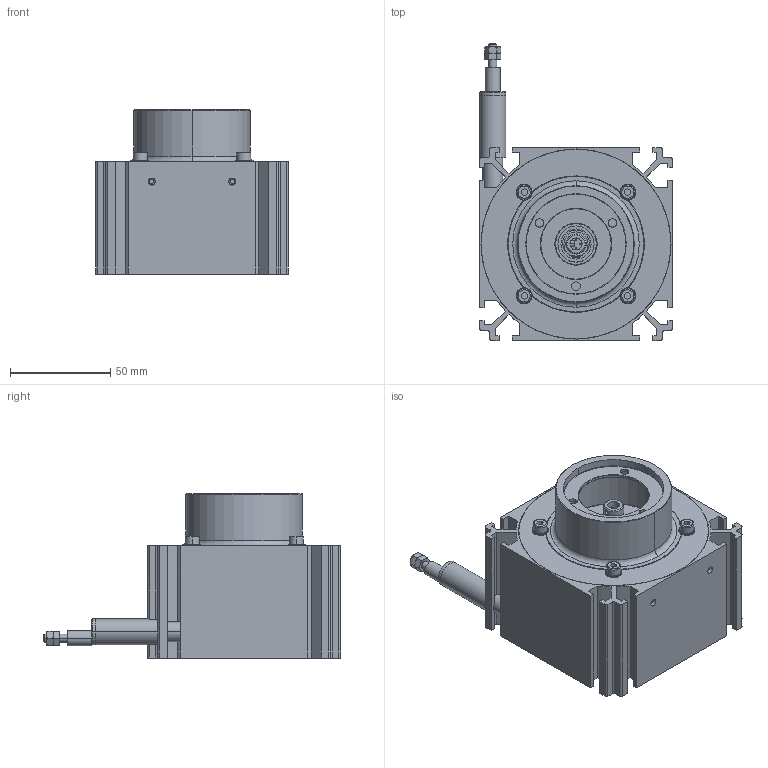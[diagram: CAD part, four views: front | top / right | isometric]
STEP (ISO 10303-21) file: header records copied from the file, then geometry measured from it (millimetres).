
FILE_DESCRIPTION((''),'2;1');
FILE_NAME('WDS-3000-P96-M_ASM','2016-03-18T',('15000411'),(''),'PRO/ENGINEER BY PARAMETRIC TECHNOLOGY CORPORATION, 2015200','PRO/ENGINEER BY PARAMETRIC TECHNOLOGY CORPORATION, 2015200','');
FILE_SCHEMA(('CONFIG_CONTROL_DESIGN'));
Length unit declared in the file: millimetre
Products named in the file (40): TELESO_SENZORU_3M_AF0; ADAPTER_3M_P96_AF0; STAV_SR_M4X5_IMBUS_PLOCH_AF0; STAV_SR_M4X5_IMBUS_PLOCH_AF1; STAV_SR_M4X5_IMBUS_PLOCH_AF2; STAV_SR_M4X5_IMBUS_PLOCH_AF3; POJ_KROUZEK_DIRA_21X_AF0; POJ_KROUZEK_DIRA_21X_AF1; LOZISKO_6801_AF0; LOZISKO_6801_AF1; HRIDEL_3M_AF0; POJ_KROUZEK_HRIDEL_12; UNASEC_PRUZINY_3M_AF0; KOLIK_PRUZNY_3X20_AF0; KOLIK_PRUZNY_3X20_AF1; KOLIK_PRUZNY_3X20_AF2; KOLIK_PRUZNY_3X20_AF3; KOLIK_PRUZNY_3X20_AF4; KOLIK_PRUZNY_3X20_AF5; KOLIK_PRUZNY_3X20_AF6; 14X0I25X6000_AF0; PODLOZKA_MOTORU_15X84I5X0I5_AF0; BUBINEK_260_AF0; STAV_SR_M4X5_IMBUS_PLOCH_AF4; VIKO_SENZORU_AF0; TRUBKA_PRUCHODKY_3M_AF0; PRUCHODKA_1_2; SROUB_LANKA_0_8; MATICE_M4; SPOJKA_GS5_PR6; KOLIK_PRUZNY_2X10; SPOJKA_KRIZ; STAV_SR_M3X3_IMBUS_PLOCH; PRIRUBA_SYNCHROENKODERU_P96; PODLOZKA_M4_VEJIROVA; SROUB_M4X6_VALC_IMBUS_AF0; SROUB_M4X6_VALC_IMBUS_AF1; SROUB_M4X6_VALC_IMBUS_AF2; SROUB_M4X6_VALC_IMBUS_AF3; WDS-3000-P96-M_ASM
Assembly tree (44 placements, depth 2):
  WDS-3000-P96-M_ASM
    TELESO_SENZORU_3M_AF0
    ADAPTER_3M_P96_AF0
    STAV_SR_M4X5_IMBUS_PLOCH_AF0
    STAV_SR_M4X5_IMBUS_PLOCH_AF1
    STAV_SR_M4X5_IMBUS_PLOCH_AF2
    STAV_SR_M4X5_IMBUS_PLOCH_AF3
    POJ_KROUZEK_DIRA_21X_AF0
    POJ_KROUZEK_DIRA_21X_AF1
    LOZISKO_6801_AF0
    LOZISKO_6801_AF1
    HRIDEL_3M_AF0
    POJ_KROUZEK_HRIDEL_12
    UNASEC_PRUZINY_3M_AF0
    KOLIK_PRUZNY_3X20_AF0
    KOLIK_PRUZNY_3X20_AF1
    KOLIK_PRUZNY_3X20_AF2
    KOLIK_PRUZNY_3X20_AF3
    KOLIK_PRUZNY_3X20_AF4
    KOLIK_PRUZNY_3X20_AF5
    KOLIK_PRUZNY_3X20_AF6
    14X0I25X6000_AF0
    PODLOZKA_MOTORU_15X84I5X0I5_AF0
    BUBINEK_260_AF0
    STAV_SR_M4X5_IMBUS_PLOCH_AF4
    VIKO_SENZORU_AF0
    TRUBKA_PRUCHODKY_3M_AF0
    PRUCHODKA_1_2
    SROUB_LANKA_0_8
    MATICE_M4  x2
    SPOJKA_GS5_PR6  x2
    KOLIK_PRUZNY_2X10
    SPOJKA_KRIZ
    STAV_SR_M3X3_IMBUS_PLOCH
    PRIRUBA_SYNCHROENKODERU_P96
    PODLOZKA_M4_VEJIROVA  x4
    SROUB_M4X6_VALC_IMBUS_AF0
    SROUB_M4X6_VALC_IMBUS_AF1
    SROUB_M4X6_VALC_IMBUS_AF2
    SROUB_M4X6_VALC_IMBUS_AF3
Bounding box: 96 x 148 x 81.7 mm (x, y, z)
Volume: 131964 mm3; surface area: 108036.5 mm2
Topology: 43 solids, 43 shells, 956 faces, 2482 edges, 1558 vertices
Faces by surface type: plane 511, cylinder 239, torus 76, cone 74, sphere 40, revolution 16
Entity records: 22842 total; most frequent: CARTESIAN_POINT 5265, DIRECTION 3802, ORIENTED_EDGE 3368, EDGE_CURVE 1684, AXIS2_PLACEMENT_3D 1492, VERTEX_POINT 1083, VECTOR 814, LINE 814
